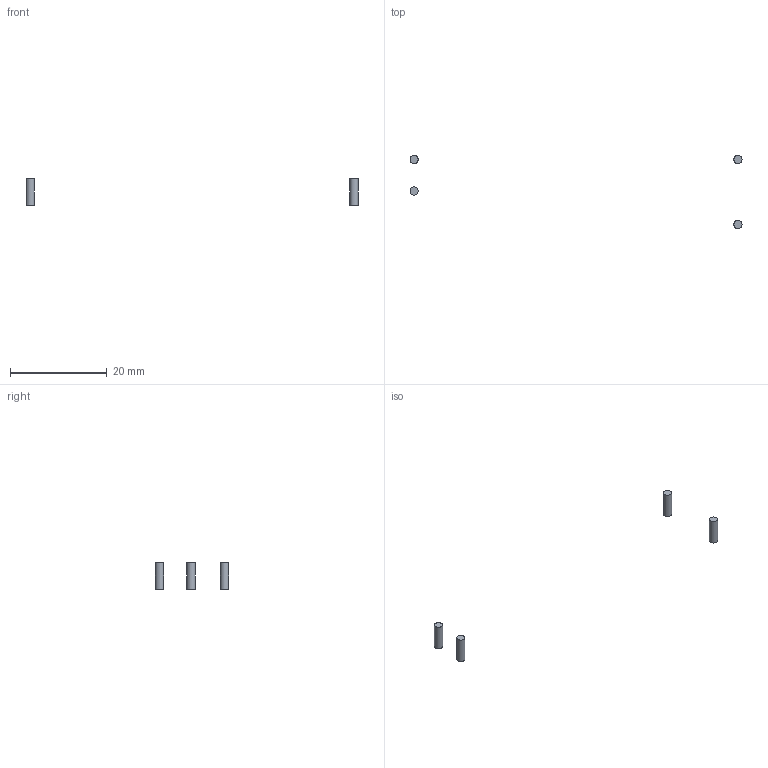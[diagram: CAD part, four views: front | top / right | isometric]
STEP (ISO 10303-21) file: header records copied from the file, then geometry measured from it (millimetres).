
FILE_DESCRIPTION(('Open CASCADE Model'),'2;1');
FILE_NAME('Open CASCADE Shape Model','2026-09-15T13:33:53',('Author'),( 'Open CASCADE'),'Open CASCADE STEP processor 7.7','Open CASCADE 7.7' ,'Unknown');
FILE_SCHEMA(('AUTOMOTIVE_DESIGN { 1 0 10303 214 1 1 1 1 }'));
Length unit declared in the file: millimetre
Products named in the file (5): Open CASCADE STEP translator 7.7 3; Open CASCADE STEP translator 7.7 3.1; Open CASCADE STEP translator 7.7 3.2; Open CASCADE STEP translator 7.7 3.3; Open CASCADE STEP translator 7.7 3.4
Assembly tree (4 placements, depth 2):
  Open CASCADE STEP translator 7.7 3
    Open CASCADE STEP translator 7.7 3.1
    Open CASCADE STEP translator 7.7 3.2
    Open CASCADE STEP translator 7.7 3.3
    Open CASCADE STEP translator 7.7 3.4
Bounding box: 68.5 x 15.1 x 5.4 mm (x, y, z)
Volume: 49 mm3; surface area: 133.5 mm2
Topology: 4 solids, 4 shells, 12 faces, 12 edges, 8 vertices
Faces by surface type: plane 8, cylinder 4
Full cylindrical faces by diameter (mm): 1.7 x4
Entity records: 456 total; most frequent: DIRECTION 78, CARTESIAN_POINT 61, AXIS2_PLACEMENT_3D 25, ORIENTED_EDGE 24, PCURVE 24, DEFINITIONAL_REPRESENTATION 24, LINE 20, VECTOR 20
